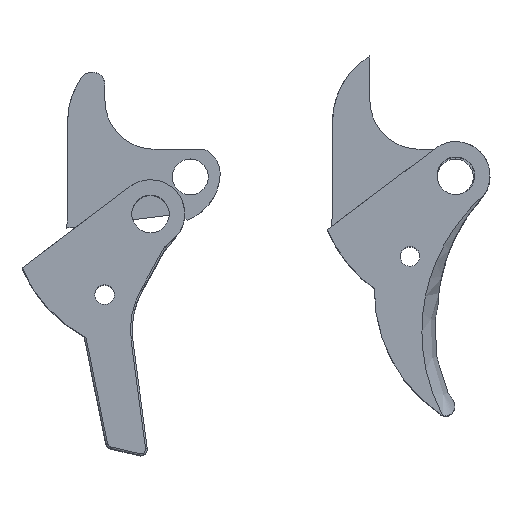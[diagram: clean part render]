
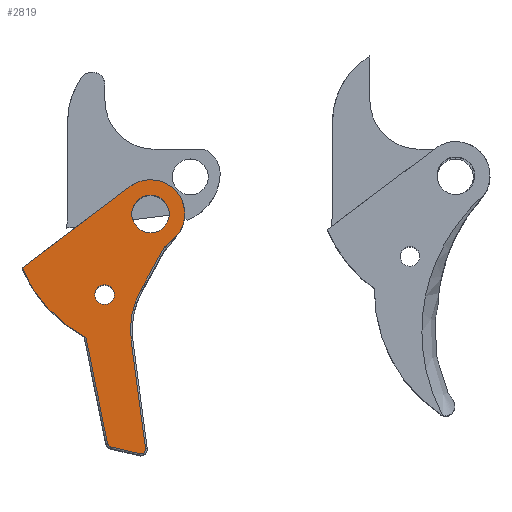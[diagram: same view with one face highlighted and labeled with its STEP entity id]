
A CAD part, top view. The second image highlights one B-rep face of the part: STEP entity #2819.
In plain terms, the highlighted planar face has unit normal (0, 0, 1).
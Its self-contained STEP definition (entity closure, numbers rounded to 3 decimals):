
#139=FACE_BOUND('',#1073,.T.);
#140=FACE_BOUND('',#1074,.T.);
#271=CIRCLE('',#3152,0.55);
#275=CIRCLE('',#3159,0.55);
#276=CIRCLE('',#3165,9.7);
#277=CIRCLE('',#3166,4.);
#278=CIRCLE('',#3167,16.3);
#279=CIRCLE('',#3168,1.15);
#280=CIRCLE('',#3169,2.2);
#450=LINE('',#6549,#646);
#451=LINE('',#6555,#647);
#458=LINE('',#6582,#654);
#459=LINE('',#6586,#655);
#460=LINE('',#6598,#656);
#646=VECTOR('',#3845,10.);
#647=VECTOR('',#3850,10.);
#654=VECTOR('',#3873,10.);
#655=VECTOR('',#3876,10.);
#656=VECTOR('',#3879,1000.);
#751=PLANE('',#3164);
#884=FACE_OUTER_BOUND('',#1072,.T.);
#1072=EDGE_LOOP('',(#2436,#2437,#2438,#2439,#2440,#2441,#2442,#2443,#2444,
#2445,#2446));
#1073=EDGE_LOOP('',(#2447));
#1074=EDGE_LOOP('',(#2448));
#1157=B_SPLINE_CURVE_WITH_KNOTS('',3,(#6588,#6589,#6590,#6591,#6592,#6593,
#6594),.UNSPECIFIED.,.F.,.F.,(4,3,4),(-0.008,0.191,
0.237),.UNSPECIFIED.);
#1360=VERTEX_POINT('',#6536);
#1363=VERTEX_POINT('',#6541);
#1364=VERTEX_POINT('',#6545);
#1367=VERTEX_POINT('',#6552);
#1368=VERTEX_POINT('',#6554);
#1370=VERTEX_POINT('',#6581);
#1371=VERTEX_POINT('',#6583);
#1372=VERTEX_POINT('',#6585);
#1373=VERTEX_POINT('',#6587);
#1374=VERTEX_POINT('',#6595);
#1375=VERTEX_POINT('',#6597);
#1376=VERTEX_POINT('',#6600);
#1377=VERTEX_POINT('',#6602);
#1725=EDGE_CURVE('',#1363,#1360,#271,.T.);
#1728=EDGE_CURVE('',#1360,#1364,#450,.T.);
#1730=EDGE_CURVE('',#1367,#1368,#451,.T.);
#1734=EDGE_CURVE('',#1364,#1367,#275,.T.);
#1740=EDGE_CURVE('',#1370,#1363,#458,.T.);
#1741=EDGE_CURVE('',#1371,#1370,#276,.T.);
#1742=EDGE_CURVE('',#1372,#1371,#459,.T.);
#1743=EDGE_CURVE('',#1373,#1372,#1157,.T.);
#1744=EDGE_CURVE('',#1373,#1374,#277,.T.);
#1745=EDGE_CURVE('',#1374,#1375,#460,.T.);
#1746=EDGE_CURVE('',#1375,#1368,#278,.T.);
#1747=EDGE_CURVE('',#1376,#1376,#279,.F.);
#1748=EDGE_CURVE('',#1377,#1377,#280,.T.);
#2436=ORIENTED_EDGE('',*,*,#1725,.F.);
#2437=ORIENTED_EDGE('',*,*,#1740,.F.);
#2438=ORIENTED_EDGE('',*,*,#1741,.F.);
#2439=ORIENTED_EDGE('',*,*,#1742,.F.);
#2440=ORIENTED_EDGE('',*,*,#1743,.F.);
#2441=ORIENTED_EDGE('',*,*,#1744,.T.);
#2442=ORIENTED_EDGE('',*,*,#1745,.T.);
#2443=ORIENTED_EDGE('',*,*,#1746,.T.);
#2444=ORIENTED_EDGE('',*,*,#1730,.F.);
#2445=ORIENTED_EDGE('',*,*,#1734,.F.);
#2446=ORIENTED_EDGE('',*,*,#1728,.F.);
#2447=ORIENTED_EDGE('',*,*,#1747,.F.);
#2448=ORIENTED_EDGE('',*,*,#1748,.T.);
#2819=ADVANCED_FACE('',(#884,#139,#140),#751,.F.);
#3152=AXIS2_PLACEMENT_3D('',#6543,#3838,#3839);
#3159=AXIS2_PLACEMENT_3D('',#6570,#3856,#3857);
#3164=AXIS2_PLACEMENT_3D('',#6580,#3871,#3872);
#3165=AXIS2_PLACEMENT_3D('',#6584,#3874,#3875);
#3166=AXIS2_PLACEMENT_3D('',#6596,#3877,#3878);
#3167=AXIS2_PLACEMENT_3D('',#6599,#3880,#3881);
#3168=AXIS2_PLACEMENT_3D('',#6601,#3882,#3883);
#3169=AXIS2_PLACEMENT_3D('',#6603,#3884,#3885);
#3838=DIRECTION('center_axis',(0.,0.,
-1.));
#3839=DIRECTION('ref_axis',(0.356,-0.934,0.));
#3845=DIRECTION('',(-0.974,0.225,0.));
#3850=DIRECTION('',(-0.199,0.98,0.));
#3856=DIRECTION('center_axis',(0.,0.,
-1.));
#3857=DIRECTION('ref_axis',(-0.716,-0.698,0.));
#3871=DIRECTION('center_axis',(0.,0.,
-1.));
#3872=DIRECTION('ref_axis',(-1.,0.,0.));
#3873=DIRECTION('',(0.132,-0.991,0.));
#3874=DIRECTION('center_axis',(0.,0.,
1.));
#3875=DIRECTION('ref_axis',(-0.983,0.184,0.));
#3876=DIRECTION('',(-0.481,-0.877,0.));
#3877=DIRECTION('center_axis',(0.,0.,
1.));
#3878=DIRECTION('ref_axis',(0.823,-0.568,0.));
#3879=DIRECTION('',(-0.799,-0.601,0.));
#3880=DIRECTION('center_axis',(0.,0.,
1.));
#3881=DIRECTION('ref_axis',(-0.922,-0.386,0.));
#3882=DIRECTION('center_axis',(0.,0.,
-1.));
#3883=DIRECTION('ref_axis',(0.966,-0.26,0.));
#3884=DIRECTION('center_axis',(0.,0.,
-1.));
#3885=DIRECTION('ref_axis',(0.966,-0.26,0.));
#6536=CARTESIAN_POINT('',(-40.231,67.961,56.801));
#6541=CARTESIAN_POINT('',(-39.562,68.57,56.801));
#6543=CARTESIAN_POINT('Origin',(-40.107,68.497,56.801));
#6545=CARTESIAN_POINT('',(-43.599,68.739,56.801));
#6549=CARTESIAN_POINT('',(-46.387,69.382,56.801));
#6552=CARTESIAN_POINT('',(-44.015,69.165,56.801));
#6554=CARTESIAN_POINT('',(-46.535,81.561,56.801));
#6555=CARTESIAN_POINT('',(-46.937,83.539,56.801));
#6570=CARTESIAN_POINT('Origin',(-43.476,69.275,56.801));
#6580=CARTESIAN_POINT('Origin',(-43.613,84.646,56.801));
#6581=CARTESIAN_POINT('',(-41.238,81.141,56.801));
#6582=CARTESIAN_POINT('',(-40.578,76.196,56.801));
#6583=CARTESIAN_POINT('',(-40.125,87.092,56.801));
#6584=CARTESIAN_POINT('Origin',(-31.623,82.422,56.801));
#6585=CARTESIAN_POINT('',(-37.389,92.074,56.801));
#6586=CARTESIAN_POINT('',(-41.796,84.049,56.801));
#6587=CARTESIAN_POINT('',(-35.69,93.731,56.801));
#6588=CARTESIAN_POINT('Ctrl Pts',(-35.69,93.731,56.801));
#6589=CARTESIAN_POINT('Ctrl Pts',(-36.152,93.328,56.801));
#6590=CARTESIAN_POINT('Ctrl Pts',(-36.615,92.889,56.801));
#6591=CARTESIAN_POINT('Ctrl Pts',(-37.074,92.41,56.801));
#6592=CARTESIAN_POINT('Ctrl Pts',(-37.18,92.299,56.801));
#6593=CARTESIAN_POINT('Ctrl Pts',(-37.285,92.187,56.801));
#6594=CARTESIAN_POINT('Ctrl Pts',(-37.389,92.074,56.801));
#6595=CARTESIAN_POINT('',(-41.384,99.202,56.801));
#6596=CARTESIAN_POINT('Origin',(-38.981,96.005,56.801));
#6597=CARTESIAN_POINT('',(-54.015,89.707,56.801));
#6598=CARTESIAN_POINT('',(-41.384,99.202,56.801));
#6599=CARTESIAN_POINT('Origin',(-38.981,96.005,56.801));
#6600=CARTESIAN_POINT('',(-45.459,86.862,56.801));
#6601=CARTESIAN_POINT('Origin',(-44.348,86.563,56.801));
#6602=CARTESIAN_POINT('',(-41.105,96.577,56.801));
#6603=CARTESIAN_POINT('Origin',(-38.981,96.005,56.801));
